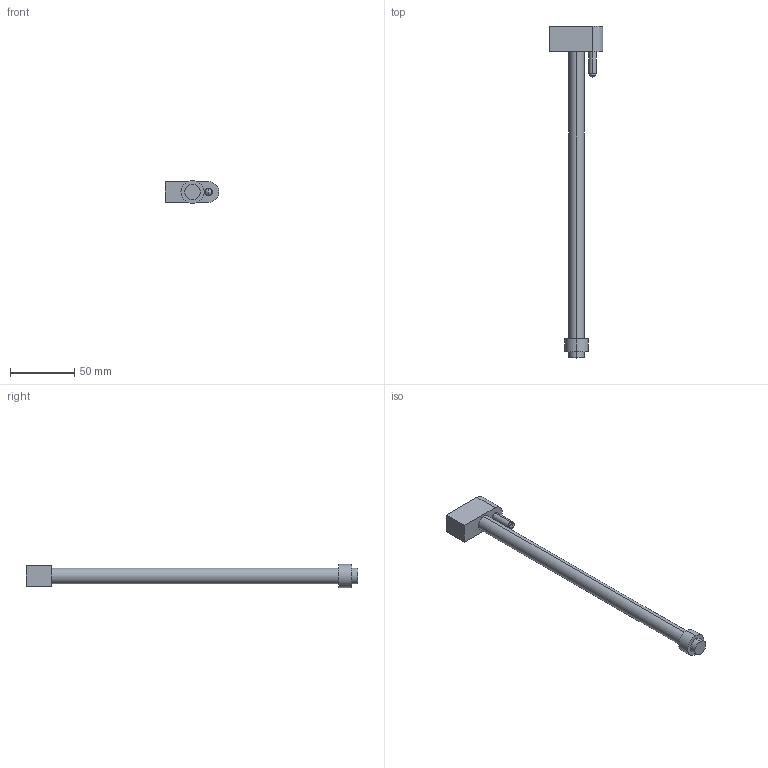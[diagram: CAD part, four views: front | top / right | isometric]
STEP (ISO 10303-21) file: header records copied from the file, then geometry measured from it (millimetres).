
FILE_DESCRIPTION (( 'STEP AP214' ), '1' );
FILE_NAME ('Ra.STEP', '2015-03-03T11:18:57', ( '' ), ( '' ), 'SwSTEP 2.0', 'SolidWorks 2014', '' );
FILE_SCHEMA (( 'AUTOMOTIVE_DESIGN' ));
Length unit declared in the file: millimetre
Products named in the file (1): Ra
Bounding box: 41.83 x 258.27 x 18 mm (x, y, z)
Volume: 41717.5 mm3; surface area: 13260.5 mm2
Topology: 1 solids, 1 shells, 22 faces, 46 edges, 29 vertices
Faces by surface type: cylinder 11, plane 9, cone 2
Entity records: 616 total; most frequent: DIRECTION 112, CARTESIAN_POINT 96, ORIENTED_EDGE 88, AXIS2_PLACEMENT_3D 45, EDGE_CURVE 44, VERTEX_POINT 29, EDGE_LOOP 27, ADVANCED_FACE 22
